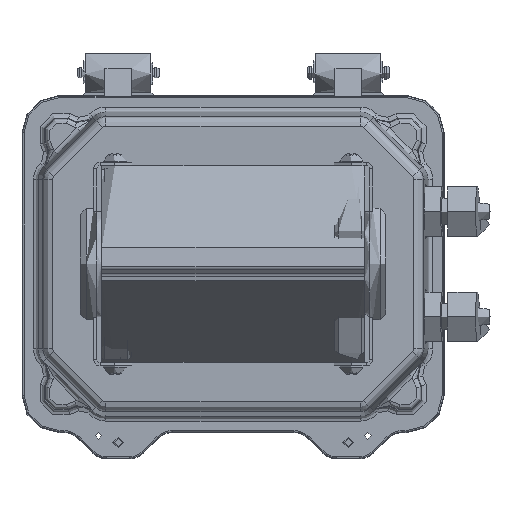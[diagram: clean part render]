
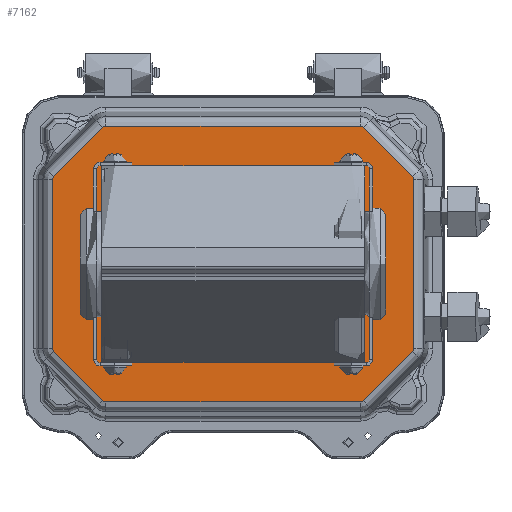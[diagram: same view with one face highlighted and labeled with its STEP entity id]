
A CAD part, front view. The second image highlights one B-rep face of the part: STEP entity #7162.
In plain terms, the highlighted planar face has unit normal (0, -1, 0).
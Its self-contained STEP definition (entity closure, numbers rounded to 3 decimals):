
#7162=ADVANCED_FACE('',(#22920,#22922),#22924,.F.);
#22920=FACE_BOUND('',#22921,.T.);
#22921=EDGE_LOOP('',(#33800,#33801,#33802,#33803,#33804,#33805,#33806,#33807,#33808,
#33809,#33810,#33811,#33812,#33813,#33814,#33815));
#22922=FACE_BOUND('',#22923,.T.);
#22923=EDGE_LOOP('',(#33816,#33817,#33818,#33819,#33820,#33821,#33822,#33823));
#22924=PLANE('',#22925);
#22925=AXIS2_PLACEMENT_3D('',#22926,#22927,#22928);
#22926=CARTESIAN_POINT('',(0.,79.272,0.));
#22927=DIRECTION('',(0.,1.,0.));
#22928=DIRECTION('',(0.,0.,-1.));
#33800=ORIENTED_EDGE('',*,*,#38900,.T.);
#33801=ORIENTED_EDGE('',*,*,#38898,.T.);
#33802=ORIENTED_EDGE('',*,*,#38881,.T.);
#33803=ORIENTED_EDGE('',*,*,#38879,.T.);
#33804=ORIENTED_EDGE('',*,*,#38965,.T.);
#33805=ORIENTED_EDGE('',*,*,#38963,.T.);
#33806=ORIENTED_EDGE('',*,*,#38952,.T.);
#33807=ORIENTED_EDGE('',*,*,#38945,.T.);
#33808=ORIENTED_EDGE('',*,*,#38943,.T.);
#33809=ORIENTED_EDGE('',*,*,#38942,.T.);
#33810=ORIENTED_EDGE('',*,*,#38931,.T.);
#33811=ORIENTED_EDGE('',*,*,#38924,.T.);
#33812=ORIENTED_EDGE('',*,*,#38922,.T.);
#33813=ORIENTED_EDGE('',*,*,#38920,.T.);
#33814=ORIENTED_EDGE('',*,*,#38909,.T.);
#33815=ORIENTED_EDGE('',*,*,#38902,.T.);
#33816=ORIENTED_EDGE('',*,*,#39082,.T.);
#33817=ORIENTED_EDGE('',*,*,#39083,.T.);
#33818=ORIENTED_EDGE('',*,*,#39084,.T.);
#33819=ORIENTED_EDGE('',*,*,#39085,.T.);
#33820=ORIENTED_EDGE('',*,*,#39086,.T.);
#33821=ORIENTED_EDGE('',*,*,#39087,.T.);
#33822=ORIENTED_EDGE('',*,*,#39088,.T.);
#33823=ORIENTED_EDGE('',*,*,#39089,.T.);
#38879=EDGE_CURVE('',#42595,#42593,#42596,.F.);
#38881=EDGE_CURVE('',#42598,#42595,#42599,.T.);
#38898=EDGE_CURVE('',#42621,#42598,#42623,.F.);
#38900=EDGE_CURVE('',#42624,#42621,#42626,.T.);
#38902=EDGE_CURVE('',#42627,#42624,#42629,.F.);
#38909=EDGE_CURVE('',#42637,#42627,#42639,.T.);
#38920=EDGE_CURVE('',#42653,#42637,#42655,.F.);
#38922=EDGE_CURVE('',#42656,#42653,#42658,.T.);
#38924=EDGE_CURVE('',#42659,#42656,#42661,.F.);
#38931=EDGE_CURVE('',#42669,#42659,#42671,.T.);
#38942=EDGE_CURVE('',#42685,#42669,#42687,.F.);
#38943=EDGE_CURVE('',#42688,#42685,#42689,.T.);
#38945=EDGE_CURVE('',#42691,#42688,#42692,.F.);
#38952=EDGE_CURVE('',#42701,#42691,#42702,.T.);
#38963=EDGE_CURVE('',#42717,#42701,#42718,.F.);
#38965=EDGE_CURVE('',#42593,#42717,#42720,.T.);
#39082=EDGE_CURVE('',#42857,#42858,#42859,.T.);
#39083=EDGE_CURVE('',#42858,#42860,#42861,.F.);
#39084=EDGE_CURVE('',#42860,#42862,#42863,.T.);
#39085=EDGE_CURVE('',#42862,#42864,#42865,.F.);
#39086=EDGE_CURVE('',#42864,#42866,#42867,.T.);
#39087=EDGE_CURVE('',#42866,#42868,#42869,.F.);
#39088=EDGE_CURVE('',#42868,#42870,#42871,.T.);
#39089=EDGE_CURVE('',#42870,#42857,#42872,.F.);
#42593=VERTEX_POINT('',#50226);
#42595=VERTEX_POINT('',#50231);
#42596=CIRCLE('',#50232,1.162);
#42598=VERTEX_POINT('',#50240);
#42599=LINE('',#50241,#50242);
#42621=VERTEX_POINT('',#50352);
#42623=CIRCLE('',#50357,1.162);
#42624=VERTEX_POINT('',#50361);
#42626=LINE('',#50366,#50367);
#42627=VERTEX_POINT('',#50369);
#42629=CIRCLE('',#50374,1.162);
#42637=VERTEX_POINT('',#50442);
#42639=LINE('',#50447,#50448);
#42653=VERTEX_POINT('',#50488);
#42655=CIRCLE('',#50493,1.162);
#42656=VERTEX_POINT('',#50497);
#42658=LINE('',#50502,#50503);
#42659=VERTEX_POINT('',#50505);
#42661=CIRCLE('',#50510,1.162);
#42669=VERTEX_POINT('',#50577);
#42671=LINE('',#50582,#50583);
#42685=VERTEX_POINT('',#50623);
#42687=CIRCLE('',#50628,1.162);
#42688=VERTEX_POINT('',#50632);
#42689=LINE('',#50633,#50634);
#42691=VERTEX_POINT('',#50640);
#42692=CIRCLE('',#50641,1.162);
#42701=VERTEX_POINT('',#50712);
#42702=LINE('',#50713,#50714);
#42717=VERTEX_POINT('',#50758);
#42718=CIRCLE('',#50759,1.162);
#42720=LINE('',#50767,#50768);
#42857=VERTEX_POINT('',#51158);
#42858=VERTEX_POINT('',#51159);
#42859=CIRCLE('',#51160,3.);
#42860=VERTEX_POINT('',#51164);
#42861=LINE('',#51165,#51166);
#42862=VERTEX_POINT('',#51168);
#42863=CIRCLE('',#51169,3.);
#42864=VERTEX_POINT('',#51173);
#42865=LINE('',#51174,#51175);
#42866=VERTEX_POINT('',#51177);
#42867=CIRCLE('',#51178,3.);
#42868=VERTEX_POINT('',#51182);
#42869=LINE('',#51183,#51184);
#42870=VERTEX_POINT('',#51186);
#42871=CIRCLE('',#51187,3.);
#42872=LINE('',#51191,#51192);
#50226=CARTESIAN_POINT('',(54.912,79.272,-25.8));
#50231=CARTESIAN_POINT('',(54.571,79.272,-26.621));
#50232=AXIS2_PLACEMENT_3D('',#50233,#50234,#50235);
#50233=CARTESIAN_POINT('',(53.75,79.272,-25.8));
#50234=DIRECTION('',(0.,1.,0.));
#50235=DIRECTION('',(1.,0.,0.));
#50240=CARTESIAN_POINT('',(39.621,79.272,-41.571));
#50241=CARTESIAN_POINT('',(39.621,79.272,-41.571));
#50242=VECTOR('',#50243,1.);
#50243=DIRECTION('',(0.707,0.,0.707));
#50352=CARTESIAN_POINT('',(38.8,79.272,-41.912));
#50357=AXIS2_PLACEMENT_3D('',#50358,#50359,#50360);
#50358=CARTESIAN_POINT('',(38.8,79.272,-40.75));
#50359=DIRECTION('',(0.,1.,0.));
#50360=DIRECTION('',(0.707,0.,-0.707));
#50361=CARTESIAN_POINT('',(-38.8,79.272,-41.912));
#50366=CARTESIAN_POINT('',(-38.8,79.272,-41.912));
#50367=VECTOR('',#50368,1.);
#50368=DIRECTION('',(1.,0.,0.));
#50369=CARTESIAN_POINT('',(-39.621,79.272,-41.571));
#50374=AXIS2_PLACEMENT_3D('',#50375,#50376,#50377);
#50375=CARTESIAN_POINT('',(-38.8,79.272,-40.75));
#50376=DIRECTION('',(0.,1.,0.));
#50377=DIRECTION('',(0.,0.,-1.));
#50442=CARTESIAN_POINT('',(-54.571,79.272,-26.621));
#50447=CARTESIAN_POINT('',(-54.571,79.272,-26.621));
#50448=VECTOR('',#50449,1.);
#50449=DIRECTION('',(0.707,0.,-0.707));
#50488=CARTESIAN_POINT('',(-54.912,79.272,-25.8));
#50493=AXIS2_PLACEMENT_3D('',#50494,#50495,#50496);
#50494=CARTESIAN_POINT('',(-53.75,79.272,-25.8));
#50495=DIRECTION('',(0.,1.,0.));
#50496=DIRECTION('',(-0.707,0.,-0.707));
#50497=CARTESIAN_POINT('',(-54.912,79.272,25.8));
#50502=CARTESIAN_POINT('',(-54.912,79.272,25.8));
#50503=VECTOR('',#50504,1.);
#50504=DIRECTION('',(0.,0.,-1.));
#50505=CARTESIAN_POINT('',(-54.571,79.272,26.621));
#50510=AXIS2_PLACEMENT_3D('',#50511,#50512,#50513);
#50511=CARTESIAN_POINT('',(-53.75,79.272,25.8));
#50512=DIRECTION('',(0.,1.,0.));
#50513=DIRECTION('',(-1.,0.,0.));
#50577=CARTESIAN_POINT('',(-39.621,79.272,41.571));
#50582=CARTESIAN_POINT('',(-39.621,79.272,41.571));
#50583=VECTOR('',#50584,1.);
#50584=DIRECTION('',(-0.707,0.,-0.707));
#50623=CARTESIAN_POINT('',(-38.8,79.272,41.912));
#50628=AXIS2_PLACEMENT_3D('',#50629,#50630,#50631);
#50629=CARTESIAN_POINT('',(-38.8,79.272,40.75));
#50630=DIRECTION('',(0.,1.,0.));
#50631=DIRECTION('',(-0.707,0.,0.707));
#50632=CARTESIAN_POINT('',(38.8,79.272,41.912));
#50633=CARTESIAN_POINT('',(38.8,79.272,41.912));
#50634=VECTOR('',#50635,1.);
#50635=DIRECTION('',(-1.,0.,0.));
#50640=CARTESIAN_POINT('',(39.621,79.272,41.571));
#50641=AXIS2_PLACEMENT_3D('',#50642,#50643,#50644);
#50642=CARTESIAN_POINT('',(38.8,79.272,40.75));
#50643=DIRECTION('',(0.,1.,0.));
#50644=DIRECTION('',(0.,0.,1.));
#50712=CARTESIAN_POINT('',(54.571,79.272,26.621));
#50713=CARTESIAN_POINT('',(54.571,79.272,26.621));
#50714=VECTOR('',#50715,1.);
#50715=DIRECTION('',(-0.707,0.,0.707));
#50758=CARTESIAN_POINT('',(54.912,79.272,25.8));
#50759=AXIS2_PLACEMENT_3D('',#50760,#50761,#50762);
#50760=CARTESIAN_POINT('',(53.75,79.272,25.8));
#50761=DIRECTION('',(0.,1.,0.));
#50762=DIRECTION('',(0.707,0.,0.707));
#50767=CARTESIAN_POINT('',(54.912,79.272,-25.8));
#50768=VECTOR('',#50769,1.);
#50769=DIRECTION('',(0.,0.,1.));
#51158=CARTESIAN_POINT('',(26.5,79.272,29.5));
#51159=CARTESIAN_POINT('',(29.5,79.272,26.5));
#51160=AXIS2_PLACEMENT_3D('',#51161,#51162,#51163);
#51161=CARTESIAN_POINT('',(26.5,79.272,26.5));
#51162=DIRECTION('',(0.,1.,0.));
#51163=DIRECTION('',(0.,0.,1.));
#51164=CARTESIAN_POINT('',(29.5,79.272,-26.5));
#51165=CARTESIAN_POINT('',(29.5,79.272,-26.5));
#51166=VECTOR('',#51167,1.);
#51167=DIRECTION('',(0.,0.,1.));
#51168=CARTESIAN_POINT('',(26.5,79.272,-29.5));
#51169=AXIS2_PLACEMENT_3D('',#51170,#51171,#51172);
#51170=CARTESIAN_POINT('',(26.5,79.272,-26.5));
#51171=DIRECTION('',(0.,1.,0.));
#51172=DIRECTION('',(1.,0.,0.));
#51173=CARTESIAN_POINT('',(-26.5,79.272,-29.5));
#51174=CARTESIAN_POINT('',(-26.5,79.272,-29.5));
#51175=VECTOR('',#51176,1.);
#51176=DIRECTION('',(1.,0.,0.));
#51177=CARTESIAN_POINT('',(-29.5,79.272,-26.5));
#51178=AXIS2_PLACEMENT_3D('',#51179,#51180,#51181);
#51179=CARTESIAN_POINT('',(-26.5,79.272,-26.5));
#51180=DIRECTION('',(0.,1.,0.));
#51181=DIRECTION('',(0.,0.,-1.));
#51182=CARTESIAN_POINT('',(-29.5,79.272,26.5));
#51183=CARTESIAN_POINT('',(-29.5,79.272,26.5));
#51184=VECTOR('',#51185,1.);
#51185=DIRECTION('',(0.,0.,-1.));
#51186=CARTESIAN_POINT('',(-26.5,79.272,29.5));
#51187=AXIS2_PLACEMENT_3D('',#51188,#51189,#51190);
#51188=CARTESIAN_POINT('',(-26.5,79.272,26.5));
#51189=DIRECTION('',(0.,1.,0.));
#51190=DIRECTION('',(-1.,0.,0.));
#51191=CARTESIAN_POINT('',(26.5,79.272,29.5));
#51192=VECTOR('',#51193,1.);
#51193=DIRECTION('',(-1.,0.,0.));
